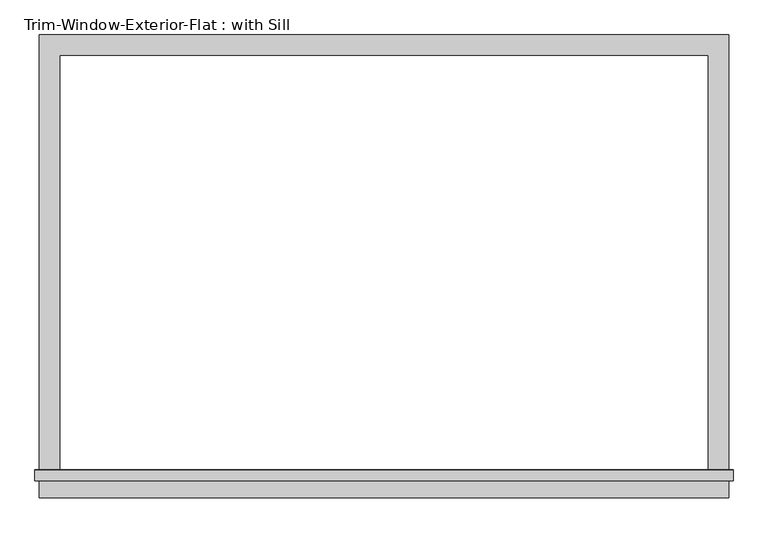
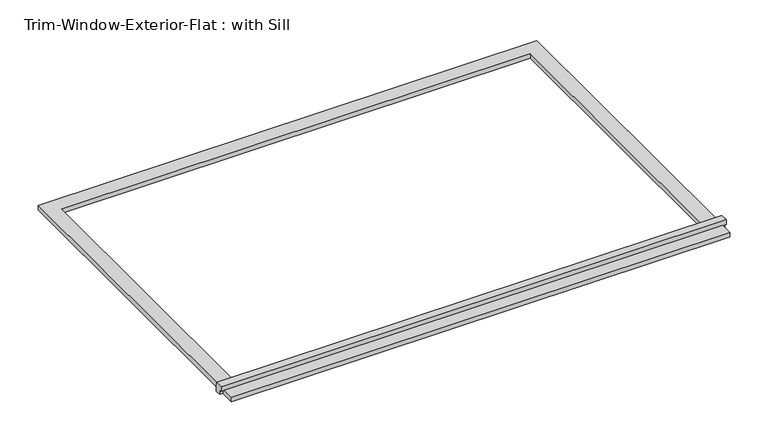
"""IFC4 building model written with IfcOpenShell, lengths in millimetres: proxy geometry, Trim-Window-Exterior-Flat : with Sill."""

from ifc_helpers import new_model, si_unit, frame, origin, origin_with_axes, place, context, project, spatial, polyline, outline, extrude, source, transform, mapped, element, save


def trim_window_exterior_flat_with_sill_ab25b066(model_context):
    return source(origin(), model_context, "Body", "SweptSolid", [
        extrude(outline(polyline([(971.55, -1190.5823709), (971.55, -1247.7323709), (-971.55, -1247.7323709), (-971.55, -1190.5823709), (971.55, -1190.5823709)])), origin_with_axes(), (0.0, 0.0, 1.0), 19.05),
        extrude(outline(polyline([(-1200.15, 38.1), (-1170.8580645, 38.1), (-1168.4, 19.05), (-1168.4, 0.0), (-1190.5823709, 0.0), (-1190.5823709, 19.05), (-1200.15, 19.05), (-1200.15, 38.1)])), frame((-984.25, 0.0, 0.0), z_axis=(1.0, 0.0, 0.0), x_axis=(0.0, 1.0, 0.0)), (0.0, 0.0, 1.0), 1968.5),
        extrude(outline(polyline([(-971.55, 57.15), (971.55, 57.15), (971.55, -1168.4), (914.4, -1168.4), (914.4, 0.0), (-914.4, 0.0), (-914.4, -1168.4), (-971.55, -1168.4), (-971.55, 57.15)])), origin_with_axes(), (0.0, 0.0, 1.0), 19.05),
    ])


if __name__ == "__main__":
    model = new_model("IFC4")
    model_context = context("Model", 3, world=origin())
    ifc_project = project(units=[si_unit("LENGTHUNIT", "METRE", prefix="MILLI")], contexts=[model_context])
    site = spatial("IfcSite", under=ifc_project)
    building = spatial("IfcBuilding", under=site)
    placement = place(None, origin())
    trim_window_exterior_flat_with_sill_shape = trim_window_exterior_flat_with_sill_ab25b066(model_context)
    element("IfcBuildingElementProxy", 1, Name="Trim-Window-Exterior-Flat : with Sill", ObjectType="Trim-Window-Exterior-Flat : with Sill", at=placement, inside=building, context=model_context, shape_type="MappedRepresentation", body=[
        mapped(trim_window_exterior_flat_with_sill_shape, transform((0.0, 0.0, 0.0), x_axis=(1.0, 0.0, 0.0), y_axis=(0.0, 1.0, 0.0), z_axis=(0.0, 0.0, 1.0))),
    ])
    save(model, "model.ifc")
